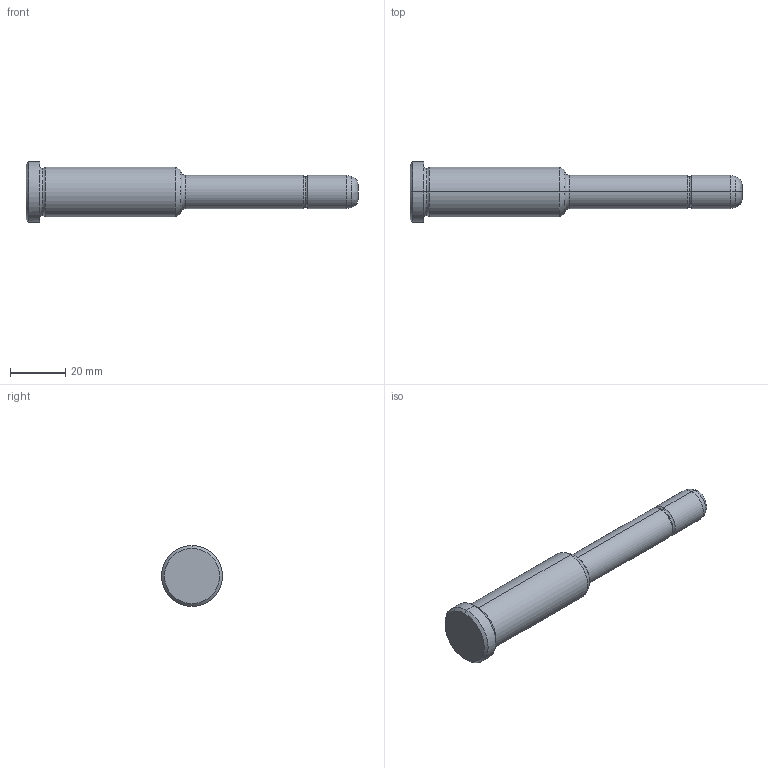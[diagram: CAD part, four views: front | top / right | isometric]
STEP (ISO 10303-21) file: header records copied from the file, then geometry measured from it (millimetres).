
FILE_DESCRIPTION(('CATIA V5 STEP Exchange'),'2;1');
FILE_NAME('C:\Users\Utente\Desktop\IO LAVORO\3D X SITO CF\X SITO\PLASTICA\351\351-12X56X120.stp','2021-08-17T13:14:08+00:00',('none'),('none'),'CATIA Version 5 Release 20 GA (IN-10)','CATIA V5 STEP AP203','none');
FILE_SCHEMA(('CONFIG_CONTROL_DESIGN'));
Length unit declared in the file: millimetre
Products named in the file (1): 351-12X56X120
Bounding box: 120 x 22 x 22 mm (x, y, z)
Volume: 21875.6 mm3; surface area: 6242.4 mm2
Topology: 1 solids, 1 shells, 30 faces, 86 edges, 60 vertices
Faces by surface type: torus 10, cylinder 8, cone 6, plane 4, bspline 2
Entity records: 1128 total; most frequent: CARTESIAN_POINT 343, ORIENTED_EDGE 172, DIRECTION 124, EDGE_CURVE 86, AXIS2_PLACEMENT_3D 83, VERTEX_POINT 60, CIRCLE 54, EDGE_LOOP 32
